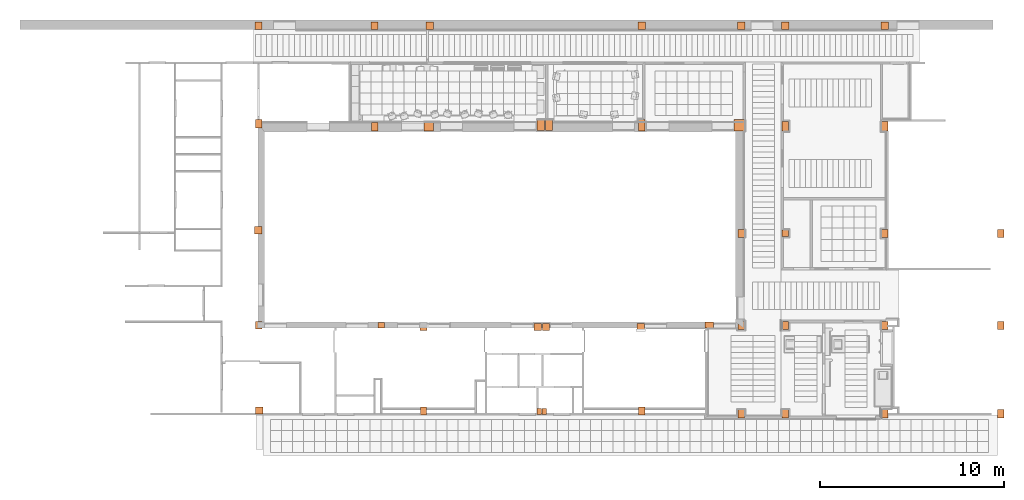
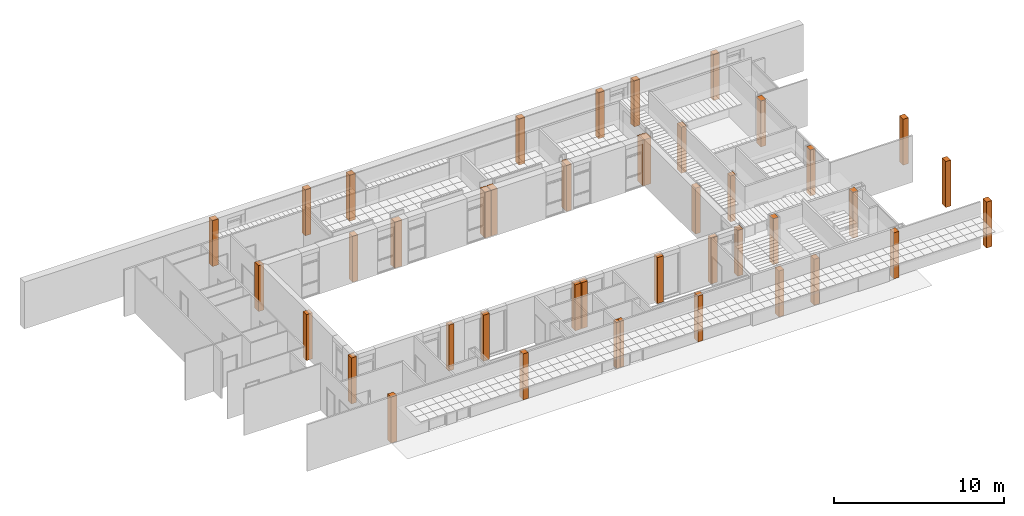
# One storey, part 60 of 60: 47 proxies.
"""IFC2X3 building model written with IfcOpenShell, lengths in millimetres."""

from ifc_helpers import new_model, entity, si_unit, converted_unit, derived_unit, money_unit, direction, frame, origin_with_axes, origin_2d_with_axis, place, context, subcontext, project, spatial, rectangle, extrude, material, type_object, element, save


model = new_model("IFC2X3")

# Units and contexts
model_context = context("Model", 3, precision=0.01, world=origin_with_axes(), true_north=direction((0.0, 1.0)))
body_context = subcontext(model_context, "Body", "Model", "MODEL_VIEW")
ifc_project = project(units=[si_unit("LENGTHUNIT", "METRE", prefix="MILLI"), si_unit("AREAUNIT", "SQUARE_METRE"), si_unit("VOLUMEUNIT", "CUBIC_METRE"), converted_unit("PLANEANGLEUNIT", "DEGREE", entity("IfcPlaneAngleMeasure", 0.0174532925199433), si_unit("PLANEANGLEUNIT", "RADIAN"), dimensions=[0, 0, 0, 0, 0, 0, 0]), money_unit("USD"), converted_unit("TIMEUNIT", "Year", entity("IfcTimeMeasure", 31557600.0), si_unit("TIMEUNIT", "SECOND"), dimensions=[0, 0, 1, 0, 0, 0, 0]), si_unit("MASSUNIT", "GRAM", prefix="KILO"), si_unit("THERMODYNAMICTEMPERATUREUNIT", "DEGREE_CELSIUS"), si_unit("LUMINOUSINTENSITYUNIT", "LUMEN"), si_unit("ENERGYUNIT", "JOULE", prefix="MEGA"), derived_unit("THERMALCONDUCTANCEUNIT", [(si_unit("POWERUNIT", "WATT"), 1), (si_unit("LENGTHUNIT", "METRE"), -1), (si_unit("THERMODYNAMICTEMPERATUREUNIT", "KELVIN"), -1)]), derived_unit("SPECIFICHEATCAPACITYUNIT", [(si_unit("ENERGYUNIT", "JOULE"), 1), (si_unit("MASSUNIT", "GRAM", prefix="KILO"), -1), (si_unit("THERMODYNAMICTEMPERATUREUNIT", "KELVIN"), -1)]), derived_unit("MASSDENSITYUNIT", [(si_unit("MASSUNIT", "GRAM", prefix="KILO"), 1), (si_unit("VOLUMEUNIT", "CUBIC_METRE"), -1)])], contexts=[model_context])

# Site, building, storey
site_placement = place(None, origin_with_axes())
site = spatial("IfcSite", under=ifc_project, at=site_placement, Name="Sitio", CompositionType="ELEMENT")
building_placement = place(site_placement, origin_with_axes())
building = spatial("IfcBuilding", under=site, at=building_placement, Name="Construcción", CompositionType="ELEMENT")
storey_placement = place(building_placement, frame((0.0, 0.0, 3650.0), z_axis=(0.0, 0.0, 1.0), x_axis=(1.0, 0.0, 0.0)))
storey = spatial("IfcBuildingStorey", under=building, at=storey_placement, Name="PLANTA 2ª", CompositionType="ELEMENT", Elevation=3650.0)

# Proxies
ifc_material = material(Name="ARQ_GN002_Generic Estructural")
building_element_proxy_type_1 = type_object("IfcBuildingElementProxyType", Name="ARQ_GN002_Generic Estructural 400 x 400", PredefinedType="NOTDEFINED")
proxy_1_placement = place(storey_placement, frame((-27967.89518992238, -16833.97642450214, 0.0), z_axis=(0.0, 0.0, 1.0), x_axis=(1.0, 0.0, 0.0)))
element("IfcBuildingElementProxy", 1, at=proxy_1_placement, inside=storey, type_object=building_element_proxy_type_1, material=ifc_material, Name="CRE - 005", context=body_context, shape_type="SweptSolid", body=[
    extrude(rectangle(XDim=400.0019838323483, YDim=400.0012015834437, at=origin_2d_with_axis()), origin_with_axes(), (0.0, 0.0, 1.0), 3300.0),
])
for number, where, z_axis, x_axis, name in (
    (2, (-12848.36846045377, -12294.56065474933, 0.0), (0.0, 0.0, 1.0), (1.0, 0.0, 0.0), "CRE - 005"),
    (3, (-19050.39355072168, -12294.56065474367, 0.0), (0.0, 0.0, 1.0), (1.0, 0.0, 0.0), "CRE - 005"),
    (4, (-7250.39355072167, -12294.56065474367, 0.0), (0.0, 0.0, 1.0), (1.0, 0.0, 0.0), "CRE - 005"),
    (5, (-12397.41864098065, -12294.56065474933, 0.0), (0.0, 0.0, 1.0), (1.0, 0.0, 0.0), "CRE - 005"),
):
    element("IfcBuildingElementProxy", number, at=place(storey_placement, frame(where, z_axis=z_axis, x_axis=x_axis)), inside=storey, type_object=building_element_proxy_type_1, material=ifc_material, Name=name, context=body_context, shape_type="SweptSolid", body=[
        extrude(rectangle(XDim=400.0012945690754, YDim=400.000000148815, at=origin_2d_with_axis()), origin_with_axes(), (0.0, 0.0, 1.0), 3300.0),
    ])
building_element_proxy_type_2 = type_object("IfcBuildingElementProxyType", Name="ARQ_GN002_Generic Estructural 350 x 450", PredefinedType="NOTDEFINED")
proxy_2_placement = place(storey_placement, frame((12303.89102136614, -7213.97574135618, 0.0), z_axis=(0.0, 0.0, 1.0), x_axis=(1.0, 0.0, 0.0)))
element("IfcBuildingElementProxy", 6, at=proxy_2_placement, inside=storey, type_object=building_element_proxy_type_2, material=ifc_material, Name="CRE - 005", context=body_context, shape_type="SweptSolid", body=[
    extrude(rectangle(XDim=350.0000525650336, YDim=450.00016468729, at=origin_2d_with_axis()), origin_with_axes(), (0.0, 0.0, 1.0), 3300.0),
])
for number, where, z_axis, x_axis, name in (
    (7, (12303.89104937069, -17013.97565867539, 0.0), (0.0, 0.0, 1.0), (1.0, 0.0, 0.0), "CRE - 005"),
    (8, (6003.891049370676, -17013.97565867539, 0.0), (0.0, 0.0, 1.0), (1.0, 0.0, 0.0), "CRE - 005"),
):
    element("IfcBuildingElementProxy", number, at=place(storey_placement, frame(where, z_axis=z_axis, x_axis=x_axis)), inside=storey, type_object=building_element_proxy_type_2, material=ifc_material, Name=name, context=body_context, shape_type="SweptSolid", body=[
        extrude(rectangle(XDim=350.0000034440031, YDim=450.0000006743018, at=origin_2d_with_axis()), origin_with_axes(), (0.0, 0.0, 1.0), 3300.0),
    ])
proxy_3_placement = place(storey_placement, frame((-1796.108978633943, -7213.975648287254, 0.0), z_axis=(0.0, 0.0, 1.0), x_axis=(1.0, 0.0, 0.0)))
element("IfcBuildingElementProxy", 9, at=proxy_3_placement, inside=storey, type_object=building_element_proxy_type_2, material=ifc_material, Name="CRE - 005", context=body_context, shape_type="SweptSolid", body=[
    extrude(rectangle(XDim=350.0000525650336, YDim=450.0020821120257, at=origin_2d_with_axis()), origin_with_axes(), (0.0, 0.0, 1.0), 3300.0),
])
proxy_4_placement = place(storey_placement, frame((-1796.109003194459, -17013.97582305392, 0.0), z_axis=(0.0, 0.0, 1.0), x_axis=(1.0, 0.0, 0.0)))
element("IfcBuildingElementProxy", 10, at=proxy_4_placement, inside=storey, type_object=building_element_proxy_type_2, material=ifc_material, Name="CRE - 005", context=body_context, shape_type="SweptSolid", body=[
    extrude(rectangle(XDim=350.0000034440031, YDim=450.0000012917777, at=origin_2d_with_axis()), origin_with_axes(), (0.0, 0.0, 1.0), 3300.0),
])
proxy_5_placement = place(storey_placement, frame((-7192.894196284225, -16858.97582404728, 0.0), z_axis=(0.0, 0.0, 1.0), x_axis=(1.0, 0.0, 0.0)))
element("IfcBuildingElementProxy", 11, at=proxy_5_placement, inside=storey, type_object=building_element_proxy_type_2, material=ifc_material, Name="CRE - 005", context=body_context, shape_type="SweptSolid", body=[
    extrude(rectangle(XDim=350.0000034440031, YDim=450.0000006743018, at=origin_2d_with_axis()), origin_with_axes(), (0.0, 0.0, 1.0), 3300.0),
])
proxy_6_placement = place(storey_placement, frame((-19050.39332986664, -16858.97514788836, 0.0), z_axis=(0.0, 0.0, 1.0), x_axis=(1.0, 0.0, 0.0)))
element("IfcBuildingElementProxy", 12, at=proxy_6_placement, inside=storey, type_object=building_element_proxy_type_2, material=ifc_material, Name="CRE - 005", context=body_context, shape_type="SweptSolid", body=[
    extrude(rectangle(XDim=350.0017362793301, YDim=450.0013516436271, at=origin_2d_with_axis()), origin_with_axes(), (0.0, 0.0, 1.0), 3300.0),
])
proxy_7_placement = place(storey_placement, frame((12303.89102136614, -12213.97574135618, 0.0), z_axis=(0.0, 0.0, 1.0), x_axis=(1.0, 0.0, 0.0)))
element("IfcBuildingElementProxy", 13, at=proxy_7_placement, inside=storey, type_object=building_element_proxy_type_2, material=ifc_material, Name="CRE - 005", context=body_context, shape_type="SweptSolid", body=[
    extrude(rectangle(XDim=350.0000525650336, YDim=450.00016468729, at=origin_2d_with_axis()), origin_with_axes(), (0.0, 0.0, 1.0), 3300.0),
])
proxy_8_placement = place(storey_placement, frame((603.8910493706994, -17013.97565867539, 0.0), z_axis=(0.0, 0.0, 1.0), x_axis=(1.0, 0.0, 0.0)))
element("IfcBuildingElementProxy", 14, at=proxy_8_placement, inside=storey, type_object=building_element_proxy_type_2, material=ifc_material, Name="CRE - 005", context=body_context, shape_type="SweptSolid", body=[
    extrude(rectangle(XDim=350.0000034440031, YDim=450.0000006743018, at=origin_2d_with_axis()), origin_with_axes(), (0.0, 0.0, 1.0), 3300.0),
])
for number, where, z_axis, x_axis, name in (
    (15, (6003.891021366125, -7213.975741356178, 0.0), (0.0, 0.0, 1.0), (1.0, 0.0, 0.0), "CRE - 005"),
    (16, (603.8910213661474, -12213.97574135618, 0.0), (0.0, 0.0, 1.0), (1.0, 0.0, 0.0), "CRE - 005"),
    (17, (6003.891021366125, -12213.97574135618, 0.0), (0.0, 0.0, 1.0), (1.0, 0.0, 0.0), "CRE - 005"),
):
    element("IfcBuildingElementProxy", number, at=place(storey_placement, frame(where, z_axis=z_axis, x_axis=x_axis)), inside=storey, type_object=building_element_proxy_type_2, material=ifc_material, Name=name, context=body_context, shape_type="SweptSolid", body=[
        extrude(rectangle(XDim=350.0000525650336, YDim=450.00016468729, at=origin_2d_with_axis()), origin_with_axes(), (0.0, 0.0, 1.0), 3300.0),
    ])
building_element_proxy_type_3 = type_object("IfcBuildingElementProxyType", Name="ARQ_GN002_Generic Estructural 250 x 345", PredefinedType="NOTDEFINED")
for number, where, z_axis, x_axis, name in (
    (18, (-12487.19180904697, -16886.47582396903, 0.0), (0.0, 0.0, 1.0), (1.0, 0.0, 0.0), "CRE - 005"),
    (19, (-12758.5965845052, -16886.47582345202, 0.0), (0.0, 0.0, 1.0), (1.0, 0.0, 0.0), "CRE - 005"),
):
    element("IfcBuildingElementProxy", number, at=place(storey_placement, frame(where, z_axis=z_axis, x_axis=x_axis)), inside=storey, type_object=building_element_proxy_type_3, material=ifc_material, Name=name, context=body_context, shape_type="SweptSolid", body=[
        extrude(rectangle(XDim=250.0000024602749, YDim=345.0000005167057, at=origin_2d_with_axis()), origin_with_axes(), (0.0, 0.0, 1.0), 3300.0),
    ])
building_element_proxy_type_4 = type_object("IfcBuildingElementProxyType", Name="ARQ_GN002_Generic Estructural 400 x 405", PredefinedType="NOTDEFINED")
for number, where, z_axis, x_axis, name in (
    (20, (-28009.76540890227, 4065.7321574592, 0.0), (0.0, 0.0, 1.0), (1.0, 0.0, 0.0), "CRE - 005"),
    (21, (599.5319299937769, 4065.732157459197, 0.0), (0.0, 0.0, 1.0), (1.0, 0.0, 0.0), "CRE - 005"),
    (22, (-1800.4680700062, 4065.732157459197, 0.0), (0.0, 0.0, 1.0), (1.0, 0.0, 0.0), "CRE - 005"),
    (23, (-7200.467796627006, 4065.732157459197, 0.0), (0.0, 0.0, 1.0), (1.0, 0.0, 0.0), "CRE - 005"),
    (24, (-18709.76540890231, 4065.732157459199, 0.0), (0.0, 0.0, 1.0), (1.0, 0.0, 0.0), "CRE - 005"),
    (25, (-21709.76540890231, 4065.732157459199, 0.0), (0.0, 0.0, 1.0), (1.0, 0.0, 0.0), "CRE - 005"),
    (26, (5999.531992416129, 4065.732157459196, 0.0), (0.0, 0.0, 1.0), (1.0, 0.0, 0.0), "CRE - 005"),
    (27, (-28009.76540890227, 4065.7321574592, 0.0), (0.0, 0.0, 1.0), (1.0, 0.0, 0.0), "CRE - 005"),
    (28, (-18709.76540890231, 4065.732157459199, 0.0), (0.0, 0.0, 1.0), (1.0, 0.0, 0.0), "CRE - 005"),
    (29, (-21709.76540890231, 4065.732157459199, 0.0), (0.0, 0.0, 1.0), (1.0, 0.0, 0.0), "CRE - 005"),
    (30, (-7200.467796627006, 4065.732157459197, 0.0), (0.0, 0.0, 1.0), (1.0, 0.0, 0.0), "CRE - 005"),
    (31, (-1800.4680700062, 4065.732157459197, 0.0), (0.0, 0.0, 1.0), (1.0, 0.0, 0.0), "CRE - 005"),
    (32, (599.5319299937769, 4065.732157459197, 0.0), (0.0, 0.0, 1.0), (1.0, 0.0, 0.0), "CRE - 005"),
):
    element("IfcBuildingElementProxy", number, at=place(storey_placement, frame(where, z_axis=z_axis, x_axis=x_axis)), inside=storey, type_object=building_element_proxy_type_4, material=ifc_material, Name=name, context=body_context, shape_type="SweptSolid", body=[
        extrude(rectangle(XDim=400.0002733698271, YDim=404.557563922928, at=origin_2d_with_axis()), origin_with_axes(), (0.0, 0.0, 1.0), 3300.0),
    ])
building_element_proxy_type_5 = type_object("IfcBuildingElementProxyType", Name="ARQ_GN002_Generic Estructural 513 x 445", PredefinedType="NOTDEFINED")
proxy_9_placement = place(storey_placement, frame((-18777.52018058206, -1416.475823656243, 0.0), z_axis=(0.0, 0.0, 1.0), x_axis=(1.0, 0.0, 0.0)))
element("IfcBuildingElementProxy", 33, at=proxy_9_placement, inside=storey, type_object=building_element_proxy_type_5, material=ifc_material, Name="CRE - 005", context=body_context, shape_type="SweptSolid", body=[
    extrude(rectangle(XDim=512.8223513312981, YDim=445.0000001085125, at=origin_2d_with_axis()), origin_with_axes(), (0.0, 0.0, 1.0), 3300.0),
])
building_element_proxy_type_6 = type_object("IfcBuildingElementProxyType", Name="ARQ_GN002_Generic Estructural 353 x 445", PredefinedType="NOTDEFINED")
proxy_10_placement = place(storey_placement, frame((-21694.6205481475, -1416.475375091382, 0.0), z_axis=(0.0, 0.0, 1.0), x_axis=(1.0, 0.0, 0.0)))
element("IfcBuildingElementProxy", 34, at=proxy_10_placement, inside=storey, type_object=building_element_proxy_type_6, material=ifc_material, Name="CRE - 005", context=body_context, shape_type="SweptSolid", body=[
    extrude(rectangle(XDim=352.9769135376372, YDim=445.0008972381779, at=origin_2d_with_axis()), origin_with_axes(), (0.0, 0.0, 1.0), 3300.0),
])
building_element_proxy_type_7 = type_object("IfcBuildingElementProxyType", Name="ARQ_GN002_Generic Estructural 353 x 450", PredefinedType="NOTDEFINED")
proxy_11_placement = place(storey_placement, frame((-1794.501576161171, -12213.97590582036, 0.0), z_axis=(0.0, 0.0, 1.0), x_axis=(1.0, 0.0, 0.0)))
element("IfcBuildingElementProxy", 35, at=proxy_11_placement, inside=storey, type_object=building_element_proxy_type_7, material=ifc_material, Name="CRE - 005", context=body_context, shape_type="SweptSolid", body=[
    extrude(rectangle(XDim=353.2148614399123, YDim=450.0001651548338, at=origin_2d_with_axis()), origin_with_axes(), (0.0, 0.0, 1.0), 3300.0),
])
building_element_proxy_type_8 = type_object("IfcBuildingElementProxyType", Name="ARQ_GN002_Generic Estructural 350 x 360", PredefinedType="NOTDEFINED")
proxy_12_placement = place(storey_placement, frame((603.891021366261, -7213.975823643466, 0.0), z_axis=(0.0, 0.0, 1.0), x_axis=(1.0, 0.0, 0.0)))
element("IfcBuildingElementProxy", 36, at=proxy_12_placement, inside=storey, type_object=building_element_proxy_type_8, material=ifc_material, Name="CRE - 005", context=body_context, shape_type="SweptSolid", body=[
    extrude(rectangle(XDim=350.0000525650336, YDim=360.0000001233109, at=origin_2d_with_axis()), origin_with_axes(), (0.0, 0.0, 1.0), 3300.0),
])
building_element_proxy_type_9 = type_object("IfcBuildingElementProxyType", Name="ARQ_GN002_Generic Estructural 350 x 400", PredefinedType="NOTDEFINED")
proxy_13_placement = place(storey_placement, frame((-27992.89506614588, -12207.00477019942, 0.0), z_axis=(0.0, 0.0, 1.0), x_axis=(1.0, 0.0, 0.0)))
element("IfcBuildingElementProxy", 37, at=proxy_13_placement, inside=storey, type_object=building_element_proxy_type_9, material=ifc_material, Name="CRE - 005", context=body_context, shape_type="SweptSolid", body=[
    extrude(rectangle(XDim=350.0017362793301, YDim=400.000000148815, at=origin_2d_with_axis()), origin_with_axes(), (0.0, 0.0, 1.0), 3300.0),
])
building_element_proxy_type_10 = type_object("IfcBuildingElementProxyType", Name="ARQ_GN002_Generic Estructural 451 x 320", PredefinedType="NOTDEFINED")
proxy_14_placement = place(storey_placement, frame((-3523.39420075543, -12178.97582545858, 0.0), z_axis=(0.0, 0.0, 1.0), x_axis=(1.0, 0.0, 0.0)))
element("IfcBuildingElementProxy", 38, at=proxy_14_placement, inside=storey, type_object=building_element_proxy_type_10, material=ifc_material, Name="CRE - 005", context=body_context, shape_type="SweptSolid", body=[
    extrude(rectangle(XDim=451.0000054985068, YDim=320.0000034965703, at=origin_2d_with_axis()), origin_with_axes(), (0.0, 0.0, 1.0), 3300.0),
])
building_element_proxy_type_11 = type_object("IfcBuildingElementProxyType", Name="ARQ_GN002_Generic Estructural 350 x 299", PredefinedType="NOTDEFINED")
proxy_15_placement = place(storey_placement, frame((-21356.21568074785, -12189.26823963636, 0.0), z_axis=(0.0, 0.0, 1.0), x_axis=(1.0, 0.0, 0.0)))
element("IfcBuildingElementProxy", 39, at=proxy_15_placement, inside=storey, type_object=building_element_proxy_type_11, material=ifc_material, Name="CRE - 005", context=body_context, shape_type="SweptSolid", body=[
    extrude(rectangle(XDim=350.0017362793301, YDim=299.4151699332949, at=origin_2d_with_axis()), origin_with_axes(), (0.0, 0.0, 1.0), 3300.0),
])
building_element_proxy_type_12 = type_object("IfcBuildingElementProxyType", Name="ARQ_GN002_Generic Estructural 410 x 400", PredefinedType="NOTDEFINED")
proxy_16_placement = place(storey_placement, frame((-28023.1106332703, -7033.975823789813, 0.0), z_axis=(0.0, 0.0, 1.0), x_axis=(1.0, 0.0, 0.0)))
element("IfcBuildingElementProxy", 40, at=proxy_16_placement, inside=storey, type_object=building_element_proxy_type_12, material=ifc_material, Name="CRE - 005", context=body_context, shape_type="SweptSolid", body=[
    extrude(rectangle(XDim=410.4363430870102, YDim=400.000000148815, at=origin_2d_with_axis()), origin_with_axes(), (0.0, 0.0, 1.0), 3300.0),
])
building_element_proxy_type_13 = type_object("IfcBuildingElementProxyType", Name="ARQ_GN002_Generic Estructural 350 x 515", PredefinedType="NOTDEFINED")
proxy_17_placement = place(storey_placement, frame((603.891021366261, -1381.475906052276, 0.0), z_axis=(0.0, 0.0, 1.0), x_axis=(1.0, 0.0, 0.0)))
element("IfcBuildingElementProxy", 41, at=proxy_17_placement, inside=storey, type_object=building_element_proxy_type_13, material=ifc_material, Name="CRE - 005", context=body_context, shape_type="SweptSolid", body=[
    extrude(rectangle(XDim=350.0000525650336, YDim=514.9998353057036, at=origin_2d_with_axis()), origin_with_axes(), (0.0, 0.0, 1.0), 3300.0),
])
proxy_18_placement = place(storey_placement, frame((6003.891021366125, -1381.475906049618, 0.0), z_axis=(0.0, 0.0, 1.0), x_axis=(1.0, 0.0, 0.0)))
element("IfcBuildingElementProxy", 42, at=proxy_18_placement, inside=storey, type_object=building_element_proxy_type_13, material=ifc_material, Name="CRE - 005", context=body_context, shape_type="SweptSolid", body=[
    extrude(rectangle(XDim=350.0000525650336, YDim=514.9998353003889, at=origin_2d_with_axis()), origin_with_axes(), (0.0, 0.0, 1.0), 3300.0),
])
building_element_proxy_type_14 = type_object("IfcBuildingElementProxyType", Name="ARQ_GN002_Generic Estructural 562 x 605", PredefinedType="NOTDEFINED")
proxy_19_placement = place(storey_placement, frame((-1902.270180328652, -1336.47590461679, 0.0), z_axis=(0.0, 0.0, 1.0), x_axis=(1.0, 0.0, 0.0)))
element("IfcBuildingElementProxy", 43, at=proxy_19_placement, inside=storey, type_object=building_element_proxy_type_14, material=ifc_material, Name="CRE - 005", context=body_context, shape_type="SweptSolid", body=[
    extrude(rectangle(XDim=562.3223509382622, YDim=604.9998381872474, at=origin_2d_with_axis()), origin_with_axes(), (0.0, 0.0, 1.0), 3300.0),
])
building_element_proxy_type_15 = type_object("IfcBuildingElementProxyType", Name="ARQ_GN002_Generic Estructural 350 x 605", PredefinedType="NOTDEFINED")
proxy_20_placement = place(storey_placement, frame((-7196.108136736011, -1336.475904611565, 0.0), z_axis=(0.0, 0.0, 1.0), x_axis=(1.0, 0.0, 0.0)))
element("IfcBuildingElementProxy", 44, at=proxy_20_placement, inside=storey, type_object=building_element_proxy_type_15, material=ifc_material, Name="CRE - 005", context=body_context, shape_type="SweptSolid", body=[
    extrude(rectangle(XDim=350.0017363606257, YDim=604.9998381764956, at=origin_2d_with_axis()), origin_with_axes(), (0.0, 0.0, 1.0), 3300.0),
])
building_element_proxy_type_16 = type_object("IfcBuildingElementProxyType", Name="ARQ_GN002_Generic Estructural 400 x 555", PredefinedType="NOTDEFINED")
proxy_21_placement = place(storey_placement, frame((-12235.86058110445, -1336.475903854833, 0.0), z_axis=(0.0, 0.0, 1.0), x_axis=(1.0, 0.0, 0.0)))
element("IfcBuildingElementProxy", 45, at=proxy_21_placement, inside=storey, type_object=building_element_proxy_type_16, material=ifc_material, Name="CRE - 005", context=body_context, shape_type="SweptSolid", body=[
    extrude(rectangle(XDim=400.0019841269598, YDim=554.9998397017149, at=origin_2d_with_axis()), origin_with_axes(), (0.0, 0.0, 1.0), 3300.0),
])
building_element_proxy_type_17 = type_object("IfcBuildingElementProxyType", Name="ARQ_GN002_Generic Estructural 400 x 552", PredefinedType="NOTDEFINED")
proxy_22_placement = place(storey_placement, frame((-12686.81040057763, -1337.890513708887, 0.0), z_axis=(0.0, 0.0, 1.0), x_axis=(1.0, 0.0, 0.0)))
element("IfcBuildingElementProxy", 46, at=proxy_22_placement, inside=storey, type_object=building_element_proxy_type_17, material=ifc_material, Name="CRE - 005", context=body_context, shape_type="SweptSolid", body=[
    extrude(rectangle(XDim=400.0019841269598, YDim=552.1706199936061, at=origin_2d_with_axis()), origin_with_axes(), (0.0, 0.0, 1.0), 3300.0),
])
building_element_proxy_type_18 = type_object("IfcBuildingElementProxyType", Name="ARQ_GN002_Generic Estructural 353 x 451", PredefinedType="NOTDEFINED")
proxy_23_placement = place(storey_placement, frame((-27991.40568867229, -1258.500515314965, 0.0), z_axis=(0.0, 0.0, 1.0), x_axis=(1.0, 0.0, 0.0)))
element("IfcBuildingElementProxy", 47, at=proxy_23_placement, inside=storey, type_object=building_element_proxy_type_18, material=ifc_material, Name="CRE - 005", context=body_context, shape_type="SweptSolid", body=[
    extrude(rectangle(XDim=352.9769135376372, YDim=450.950949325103, at=origin_2d_with_axis()), origin_with_axes(), (0.0, 0.0, 1.0), 3300.0),
])

save(model, "model.ifc")
